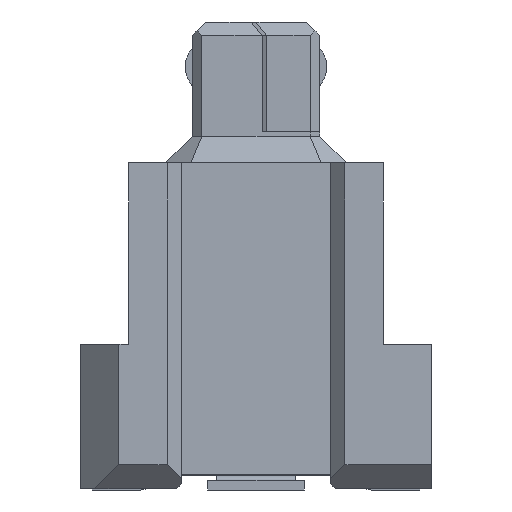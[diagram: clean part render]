
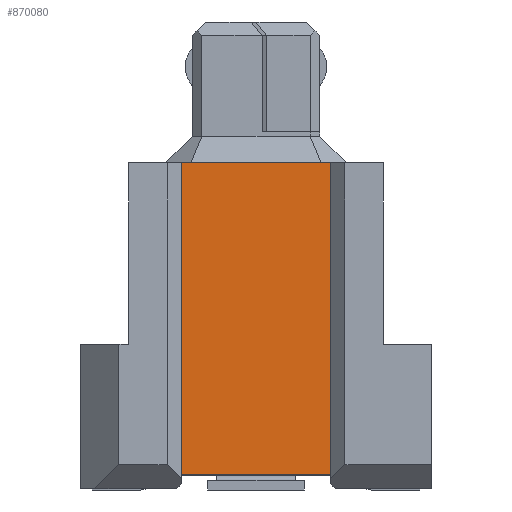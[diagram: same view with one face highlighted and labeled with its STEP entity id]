
A CAD part, left-side view. The second image highlights one B-rep face of the part: STEP entity #870080.
In plain terms, the highlighted planar face has unit normal (-1, 0, 0).
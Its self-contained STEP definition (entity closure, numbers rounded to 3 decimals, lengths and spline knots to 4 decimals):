
#58780=CARTESIAN_POINT('',(-5.0318,-5.0602,1.1));
#58790=VERTEX_POINT('',#58780);
#58820=CARTESIAN_POINT('',(-5.0318,-5.0602,0.));
#58830=DIRECTION('',(0.,0.,-1.));
#58840=VECTOR('',#58830,1.);
#58850=LINE('',#58820,#58840);
#58860=CARTESIAN_POINT('',(-5.0318,-5.0602,4.2));
#58870=VERTEX_POINT('',#58860);
#58880=EDGE_CURVE('',#58870,#58790,#58850,.T.);
#140970=CARTESIAN_POINT('',(-5.0318,1.4098,4.2));
#140980=VERTEX_POINT('',#140970);
#141010=CARTESIAN_POINT('',(-5.0318,1.4098,0.));
#141020=DIRECTION('',(0.,0.,1.));
#141030=VECTOR('',#141020,1.);
#141040=LINE('',#141010,#141030);
#141050=CARTESIAN_POINT('',(-5.0318,1.4098,1.1));
#141060=VERTEX_POINT('',#141050);
#141070=EDGE_CURVE('',#141060,#140980,#141040,.T.);
#868600=CARTESIAN_POINT('',(-5.0318,0.,4.2));
#868610=DIRECTION('',(0.,-1.,0.));
#868620=VECTOR('',#868610,1.);
#868630=LINE('',#868600,#868620);
#868640=EDGE_CURVE('',#140980,#58870,#868630,.T.);
#869920=CARTESIAN_POINT('',(-5.0318,-5.3602,5.3));
#869930=DIRECTION('',(-1.,0.,0.));
#869940=DIRECTION('',(0.,1.,0.));
#869950=AXIS2_PLACEMENT_3D('',#869920,#869930,#869940);
#869960=PLANE('',#869950);
#869970=CARTESIAN_POINT('',(-5.0318,0.,1.1));
#869980=DIRECTION('',(0.,-1.,0.));
#869990=VECTOR('',#869980,1.);
#870000=LINE('',#869970,#869990);
#870010=EDGE_CURVE('',#141060,#58790,#870000,.T.);
#870020=ORIENTED_EDGE('',*,*,#870010,.T.);
#870030=ORIENTED_EDGE('',*,*,#141070,.F.);
#870040=ORIENTED_EDGE('',*,*,#868640,.F.);
#870050=ORIENTED_EDGE('',*,*,#58880,.F.);
#870060=EDGE_LOOP('',(#870050,#870040,#870030,#870020));
#870070=FACE_OUTER_BOUND('',#870060,.T.);
#870080=ADVANCED_FACE('',(#870070),#869960,.T.);
